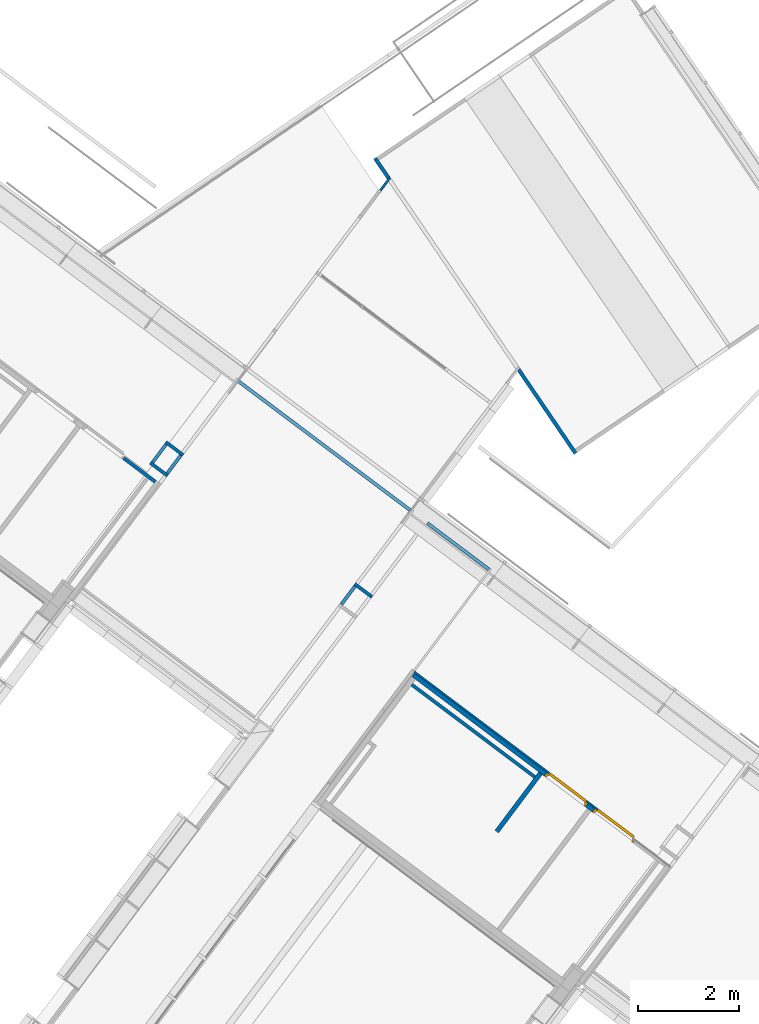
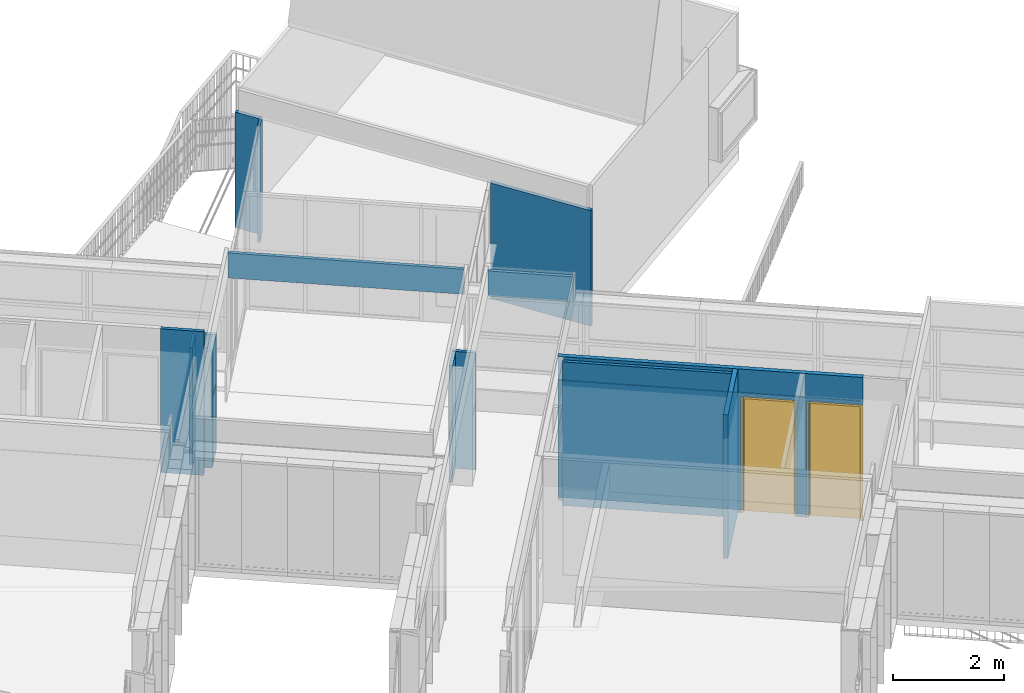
# One storey, part 130 of 243: 19 walls, 2 doors, 5 openings.
"""IFC2X3 building model written with IfcOpenShell, lengths in metres."""

from ifc_helpers import new_model, entity, si_unit, converted_unit, derived_unit, direction, frame, frame_2d, origin, place, context, subcontext, project, spatial, polyline, rectangle, outline, extrude, faceted_brep, source, transform, mapped, material, material_list, layer, layer_set, layer_usage, type_object, type_shapes, element, fill, save


model = new_model("IFC2X3")

# Units and contexts
model_context = context("Model", 3, precision=1e-05, world=origin(), true_north=direction((6.123031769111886e-17, 1.0)))
body_context = subcontext(model_context, "Body", "Model", "MODEL_VIEW")
ifc_project = project(units=[si_unit("LENGTHUNIT", "METRE"), si_unit("AREAUNIT", "SQUARE_METRE"), si_unit("VOLUMEUNIT", "CUBIC_METRE"), converted_unit("PLANEANGLEUNIT", "DEGREE", entity("IfcRatioMeasure", 0.017453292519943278), si_unit("PLANEANGLEUNIT", "RADIAN"), dimensions=[0, 0, 0, 0, 0, 0, 0]), si_unit("MASSUNIT", "GRAM", prefix="KILO"), derived_unit("MASSDENSITYUNIT", [(si_unit("MASSUNIT", "GRAM", prefix="KILO"), 1), (si_unit("LENGTHUNIT", "METRE"), -3)]), derived_unit("IONCONCENTRATIONUNIT", [(si_unit("MASSUNIT", "GRAM", prefix="KILO"), 1), (si_unit("LENGTHUNIT", "METRE"), -3)]), derived_unit("MOMENTOFINERTIAUNIT", [(si_unit("LENGTHUNIT", "METRE"), 4)]), si_unit("TIMEUNIT", "SECOND"), si_unit("FREQUENCYUNIT", "HERTZ"), si_unit("THERMODYNAMICTEMPERATUREUNIT", "DEGREE_CELSIUS"), derived_unit("THERMALTRANSMITTANCEUNIT", [(si_unit("MASSUNIT", "GRAM", prefix="KILO"), 1), (si_unit("THERMODYNAMICTEMPERATUREUNIT", "KELVIN"), -1), (si_unit("TIMEUNIT", "SECOND"), -3)]), derived_unit("THERMALCONDUCTANCEUNIT", [(si_unit("MASSUNIT", "GRAM", prefix="KILO"), 1), (si_unit("THERMODYNAMICTEMPERATUREUNIT", "KELVIN"), -1), (si_unit("TIMEUNIT", "SECOND"), -3), (si_unit("LENGTHUNIT", "METRE"), 1)]), derived_unit("VOLUMETRICFLOWRATEUNIT", [(si_unit("LENGTHUNIT", "METRE"), 3), (si_unit("TIMEUNIT", "SECOND"), -1)]), derived_unit("MASSFLOWRATEUNIT", [(si_unit("MASSUNIT", "GRAM", prefix="KILO"), 1), (si_unit("TIMEUNIT", "SECOND"), -1)]), derived_unit("ROTATIONALFREQUENCYUNIT", [(si_unit("TIMEUNIT", "SECOND"), -1)]), si_unit("ELECTRICCURRENTUNIT", "AMPERE"), si_unit("ELECTRICVOLTAGEUNIT", "VOLT"), si_unit("POWERUNIT", "WATT"), si_unit("FORCEUNIT", "NEWTON", prefix="KILO"), si_unit("ILLUMINANCEUNIT", "LUX"), si_unit("LUMINOUSFLUXUNIT", "LUMEN"), si_unit("LUMINOUSINTENSITYUNIT", "CANDELA"), derived_unit("USERDEFINED", [(si_unit("MASSUNIT", "GRAM", prefix="KILO"), -1), (si_unit("LENGTHUNIT", "METRE"), -2), (si_unit("TIMEUNIT", "SECOND"), 3), (si_unit("LUMINOUSFLUXUNIT", "LUMEN"), 1)]), derived_unit("USERDEFINED", [(si_unit("MASSUNIT", "GRAM", prefix="KILO"), 1), (si_unit("TIMEUNIT", "SECOND"), -3), (si_unit("LENGTHUNIT", "METRE"), 3), (si_unit("ELECTRICCURRENTUNIT", "AMPERE"), -2)]), derived_unit("SOUNDPOWERUNIT", [(si_unit("MASSUNIT", "GRAM", prefix="KILO"), 1), (si_unit("TIMEUNIT", "SECOND"), -3), (si_unit("LENGTHUNIT", "METRE"), 2)]), derived_unit("SOUNDPRESSUREUNIT", [(si_unit("MASSUNIT", "GRAM", prefix="KILO"), 1), (si_unit("LENGTHUNIT", "METRE"), -1), (si_unit("TIMEUNIT", "SECOND"), -2)]), derived_unit("LINEARVELOCITYUNIT", [(si_unit("LENGTHUNIT", "METRE"), 1), (si_unit("TIMEUNIT", "SECOND"), -1)]), si_unit("PRESSUREUNIT", "PASCAL"), derived_unit("USERDEFINED", [(si_unit("MASSUNIT", "GRAM", prefix="KILO"), 1), (si_unit("LENGTHUNIT", "METRE"), -2), (si_unit("TIMEUNIT", "SECOND"), -2)]), derived_unit("LINEARFORCEUNIT", [(si_unit("MASSUNIT", "GRAM", prefix="KILO"), 1), (si_unit("TIMEUNIT", "SECOND"), -2)]), derived_unit("PLANARFORCEUNIT", [(si_unit("MASSUNIT", "GRAM", prefix="KILO"), 1), (si_unit("LENGTHUNIT", "METRE"), -1), (si_unit("TIMEUNIT", "SECOND"), -2)]), derived_unit("SPECIFICHEATCAPACITYUNIT", [(si_unit("THERMODYNAMICTEMPERATUREUNIT", "KELVIN"), -1), (si_unit("LENGTHUNIT", "METRE"), 2), (si_unit("TIMEUNIT", "SECOND"), -2)]), derived_unit("HEATINGVALUEUNIT", [(si_unit("LENGTHUNIT", "METRE"), 2), (si_unit("TIMEUNIT", "SECOND"), -2)]), derived_unit("VAPORPERMEABILITYUNIT", [(si_unit("LENGTHUNIT", "METRE"), -1), (si_unit("TIMEUNIT", "SECOND"), 1)]), derived_unit("DYNAMICVISCOSITYUNIT", [(si_unit("MASSUNIT", "GRAM", prefix="KILO"), 1), (si_unit("TIMEUNIT", "SECOND"), -1), (si_unit("LENGTHUNIT", "METRE"), -1)]), derived_unit("THERMALEXPANSIONCOEFFICIENTUNIT", [(si_unit("THERMODYNAMICTEMPERATUREUNIT", "KELVIN"), -1)]), derived_unit("MODULUSOFELASTICITYUNIT", [(si_unit("MASSUNIT", "GRAM", prefix="KILO"), 1), (si_unit("LENGTHUNIT", "METRE"), -1), (si_unit("TIMEUNIT", "SECOND"), -2)]), derived_unit("ISOTHERMALMOISTURECAPACITYUNIT", [(si_unit("LENGTHUNIT", "METRE"), 3), (si_unit("MASSUNIT", "GRAM", prefix="KILO"), -1)]), derived_unit("MOISTUREDIFFUSIVITYUNIT", [(si_unit("TIMEUNIT", "SECOND"), -1), (si_unit("LENGTHUNIT", "METRE"), 2)])], contexts=[model_context])

# Site, building, storey
site_placement = place(None, frame((0.0, 0.0, 235.0), z_axis=(0.0, 0.0, 1.0), x_axis=(-0.7996477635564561, 0.6004693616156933, 0.0)))
site = spatial("IfcSite", under=ifc_project, at=site_placement, Name="Default", CompositionType="ELEMENT")
building_placement = place(site_placement, origin())
building = spatial("IfcBuilding", under=site, at=building_placement, CompositionType="ELEMENT")
storey_placement = place(building_placement, origin())
storey = spatial("IfcBuildingStorey", under=building, at=storey_placement, Name="P0- Escola", CompositionType="ELEMENT", Elevation=0.0)

# Walls
ifc_material_1 = material(Name="_Fusta massisa- T1-  REV- PAV")
ifc_layer_1 = layer(ifc_material_1, 0.015)
ifc_material_2 = material(Name="_Genèric perfils, muntants, rastrells")
ifc_layer_2 = layer(ifc_material_2, 0.05)
ifc_layer_set_1 = layer_set([ifc_layer_1, ifc_layer_2], Name="Muro básico:REV- Fusta- T1- 6,5 cm")
ifc_layer_usage_1 = layer_usage(ifc_layer_set_1, "AXIS2", "NEGATIVE", 0.0325)
wall_type_1 = type_object("IfcWallType", Name="Muro básico:REV- Fusta- T1- 6,5 cm", PredefinedType="STANDARD", material=ifc_layer_set_1)
wall_1_placement = place(storey_placement, frame((66.41264768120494, -40.1401917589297, 0.0), z_axis=(0.0, 0.0, 1.0), x_axis=(0.0, 1.0, 0.0)))
element("IfcWallStandardCase", 1, at=wall_1_placement, inside=storey, type_object=wall_type_1, material=ifc_layer_usage_1, Name="Muro básico:REV- Fusta- T1- 6,5 cm", ObjectType="Muro básico:REV- Fusta- T1- 6,5 cm", context=body_context, shape_type="SweptSolid", body=[
    extrude(rectangle(XDim=0.45000000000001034, YDim=0.06500000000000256, at=frame_2d((0.22500000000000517, 0.0), x_axis=(-1.0, 0.0))), origin(), (0.0, 0.0, 1.0), 1.4999999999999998),
])
ifc_layer_usage_2 = layer_usage(ifc_layer_set_1, "AXIS2", "POSITIVE", -0.0325)
wall_2_placement = place(storey_placement, frame((66.77764768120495, -40.1401917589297, 0.0), z_axis=(0.0, 0.0, 1.0), x_axis=(0.0, 1.0, 0.0)))
element("IfcWallStandardCase", 2, at=wall_2_placement, inside=storey, type_object=wall_type_1, material=ifc_layer_usage_2, Name="Muro básico:REV- Fusta- T1- 6,5 cm", ObjectType="Muro básico:REV- Fusta- T1- 6,5 cm", context=body_context, shape_type="SweptSolid", body=[
    extrude(rectangle(XDim=0.45000000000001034, YDim=0.06500000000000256, at=frame_2d((0.22500000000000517, 0.0), x_axis=(-1.0, 0.0))), origin(), (0.0, 0.0, 1.0), 1.4999999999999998),
])
wall_3_placement = place(storey_placement, frame((66.81014768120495, -39.65769175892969, 0.0), z_axis=(0.0, 0.0, 1.0), x_axis=(-1.0, 0.0, 0.0)))
element("IfcWallStandardCase", 3, at=wall_3_placement, inside=storey, type_object=wall_type_1, material=ifc_layer_usage_2, Name="Muro básico:REV- Fusta- T1- 6,5 cm", ObjectType="Muro básico:REV- Fusta- T1- 6,5 cm", context=body_context, shape_type="SweptSolid", body=[
    extrude(rectangle(XDim=0.4300000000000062, YDim=0.06500000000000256, at=frame_2d((0.2150000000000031, 0.0), x_axis=(-1.0, 0.0))), origin(), (0.0, 0.0, 1.0), 2.5650000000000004),
])
wall_4_placement = place(storey_placement, frame((66.81014768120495, -40.1726917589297, 0.0), z_axis=(0.0, 0.0, 1.0), x_axis=(-1.0, 0.0, 0.0)))
element("IfcWallStandardCase", 4, at=wall_4_placement, inside=storey, type_object=wall_type_1, material=ifc_layer_usage_1, Name="Muro básico:REV- Fusta- T1- 6,5 cm", ObjectType="Muro básico:REV- Fusta- T1- 6,5 cm", context=body_context, shape_type="SweptSolid", body=[
    extrude(rectangle(XDim=0.4300000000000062, YDim=0.06500000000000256, at=frame_2d((0.2150000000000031, 0.0), x_axis=(-1.0, 0.0))), origin(), (0.0, 0.0, 1.0), 2.5650000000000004),
])
wall_5_placement = place(storey_placement, frame((62.07764768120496, -40.140191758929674, 0.0), z_axis=(0.0, 0.0, 1.0), x_axis=(0.0, 1.0, 0.0)))
element("IfcWallStandardCase", 5, at=wall_5_placement, inside=storey, type_object=wall_type_1, material=ifc_layer_usage_2, Name="Muro básico:REV- Fusta- T1- 6,5 cm", ObjectType="Muro básico:REV- Fusta- T1- 6,5 cm", context=body_context, shape_type="SweptSolid", body=[
    extrude(rectangle(XDim=0.45000000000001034, YDim=0.06500000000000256, at=frame_2d((0.22500000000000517, 0.0), x_axis=(-1.0, 0.0))), origin(), (0.0, 0.0, 1.0), 1.4999999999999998),
])
wall_6_placement = place(storey_placement, frame((62.11014768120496, -40.17269175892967, 0.0), z_axis=(0.0, 0.0, 1.0), x_axis=(-1.0, 0.0, 0.0)))
element("IfcWallStandardCase", 6, at=wall_6_placement, inside=storey, type_object=wall_type_1, material=ifc_layer_usage_1, Name="Muro básico:REV- Fusta- T1- 6,5 cm", ObjectType="Muro básico:REV- Fusta- T1- 6,5 cm", context=body_context, shape_type="SweptSolid", body=[
    extrude(rectangle(XDim=0.4300000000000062, YDim=0.06500000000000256, at=frame_2d((0.2150000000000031, 0.0), x_axis=(-1.0, 0.0))), origin(), (0.0, 0.0, 1.0), 2.5650000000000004),
])
ifc_material_3 = material(Name="_Ceràmica- ENV")
ifc_layer_3 = layer(ifc_material_3, 0.09)
ifc_layer_set_2 = layer_set([ifc_layer_3], Name="Muro básico:ENV- Ceràmic- 9 cm")
ifc_layer_usage_3 = layer_usage(ifc_layer_set_2, "AXIS2", "POSITIVE", -0.045)
wall_type_2 = type_object("IfcWallType", Name="Muro básico:ENV- Ceràmic- 9 cm", PredefinedType="STANDARD", material=ifc_layer_set_2)
wall_7_placement = place(storey_placement, frame((56.89314768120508, -37.930191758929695, 0.0), z_axis=(0.0, 0.0, 1.0), x_axis=(0.0, -1.0, 0.0)))
element("IfcWallStandardCase", 7, at=wall_7_placement, inside=storey, type_object=wall_type_2, material=ifc_layer_usage_3, Name="Muro básico:ENV- Ceràmic- 9 cm", ObjectType="Muro básico:ENV- Ceràmic- 9 cm", context=body_context, shape_type="SweptSolid", body=[
    extrude(rectangle(XDim=1.4499999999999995, YDim=0.08999999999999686, at=frame_2d((0.7249999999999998, 0.0), x_axis=(-1.0, 0.0))), origin(), (0.0, 0.0, 1.0), 3.150000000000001),
])

# Wall, openings, doors
wall_8_placement = place(storey_placement, frame((54.58814768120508, -39.42519175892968, 0.0)))
wall_8 = element("IfcWallStandardCase", 8, at=wall_8_placement, inside=storey, type_object=wall_type_2, material=ifc_layer_usage_3, Name="Muro básico:ENV- Ceràmic- 9 cm", ObjectType="Muro básico:ENV- Ceràmic- 9 cm", context=body_context, shape_type="SweptSolid", body=[
    extrude(rectangle(XDim=5.51199999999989, YDim=0.08999999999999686, at=frame_2d((2.755999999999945, 8.326672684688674e-17), x_axis=(-1.0, 0.0))), origin(), (0.0, 0.0, 1.0), 3.150000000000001),
])
opening_1_placement = place(wall_8_placement, frame((0.0, -0.045000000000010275, 0.0)))
opening_1 = element("IfcOpeningElement", 9, at=opening_1_placement, cuts=wall_8, Name="FUS- Porta Fusta- marc ocult- obertura corredera:FUS- Porta Fusta- marc ocult- 90x250,5 cm:1", ObjectType="Opening", context=body_context, shape_type="SweptSolid", body=[
    extrude(rectangle(XDim=2.544999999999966, YDim=1.0199999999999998, at=frame_2d((1.272499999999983, 0.5099999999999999), x_axis=(1.0, 0.0))), frame((0.0, 0.0, 0.0), z_axis=(0.0, 1.0, 0.0), x_axis=(0.0, 0.0, 1.0)), (0.0, 0.0, 1.0), 0.09),
])
opening_2_placement = place(wall_8_placement, frame((1.1899999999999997, -0.04500000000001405, 0.0)))
opening_2 = element("IfcOpeningElement", 10, at=opening_2_placement, cuts=wall_8, Name="FUS- Porta Fusta- marc ocult- obertura interior:FUS- Porta Fusta- marc ocult- 90x250,5 cm:1", ObjectType="Opening", context=body_context, shape_type="SweptSolid", body=[
    extrude(rectangle(XDim=2.544999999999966, YDim=1.0199999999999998, at=frame_2d((1.272499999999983, 0.5099999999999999), x_axis=(1.0, 0.0))), frame((0.0, 0.0, 0.0), z_axis=(0.0, 1.0, 0.0), x_axis=(0.0, 0.0, 1.0)), (0.0, 0.0, 1.0), 0.09),
])
ifc_material_4 = material(Name="_Fusta tecnològica- REV- PAV")
ifc_material_list = material_list([ifc_material_4, ifc_material_1])
door_style_1 = type_object("IfcDoorStyle", Name="FUS- Porta Fusta- marc ocult- obertura corredera:FUS- Porta Fusta- marc ocult- 90x250,5 cm", ConstructionType="NOTDEFINED", OperationType="NOTDEFINED", ParameterTakesPrecedence=False, Sizeable=False, material=ifc_material_list)
shared_shape_1 = source(origin(), body_context, "Body", "Brep", [
    faceted_brep([(0.040000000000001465, 0.0, 2.5049999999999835), (0.9799999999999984, 0.0, 2.5049999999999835), (0.9800000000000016, 0.0, 0.0), (1.0099999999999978, 0.0, 0.0), (1.0099999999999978, 0.0, 2.5449999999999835), (0.010000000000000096, 0.0, 2.5449999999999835), (0.010000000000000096, 0.0, 0.0), (0.03999999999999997, 0.0, 0.0), (0.9800000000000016, 0.05500000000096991, 0.0), (0.9800000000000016, 0.05500000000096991, 2.5049999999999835), (1.0099999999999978, 0.010000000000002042, 0.0), (1.0200000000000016, 0.05500000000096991, 0.0), (1.0200000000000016, 0.010000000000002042, 0.0), (1.0099999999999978, 0.010000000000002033, 2.5449999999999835), (0.010000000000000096, 0.010000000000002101, 2.5449999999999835), (0.010000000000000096, 0.010000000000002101, 0.0), (0.0, 0.010000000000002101, 0.0), (0.0, 0.09000000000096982, 0.0), (0.06000000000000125, 0.09000000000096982, 0.0), (0.06000000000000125, 0.04000000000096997, 0.0), (0.03999999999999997, 0.04000000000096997, 0.0), (0.03999999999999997, 0.04000000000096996, 2.5049999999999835), (0.0, 0.09000000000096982, 2.5449999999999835), (0.9599999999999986, 0.09000000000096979, 2.5449999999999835), (0.9599999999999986, 0.09000000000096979, 2.5049999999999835), (0.05999999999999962, 0.09000000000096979, 2.5049999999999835), (0.06000000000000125, 0.07000000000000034, 2.5049999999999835), (0.06000000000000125, 0.04000000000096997, 2.5049999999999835), (0.0, 0.010000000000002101, 2.5449999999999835), (0.9800000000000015, 0.055000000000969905, 2.5449999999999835), (1.0200000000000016, 0.05500000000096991, 2.5449999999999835), (1.0200000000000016, 0.010000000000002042, 2.5449999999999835), (0.9799999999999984, 0.07000000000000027, 2.5449999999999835), (0.9599999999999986, 0.07000000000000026, 2.5449999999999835), (0.9799999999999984, 0.07000000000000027, 2.5049999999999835), (0.9599999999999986, 0.07000000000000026, 2.5049999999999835)], [[[0, 1, 2, 3, 4, 5, 6, 7]], [[8, 2, 1, 9]], [[10, 3, 2, 8, 11, 12]], [[13, 4, 3, 10]], [[5, 14, 15, 6]], [[15, 16, 17, 18, 19, 20, 7, 6]], [[7, 20, 21, 0]], [[22, 23, 24, 25, 18, 17]], [[19, 18, 25, 26, 27]], [[28, 22, 17, 16]], [[29, 30, 11, 8, 9]], [[30, 31, 12, 11]], [[31, 13, 10, 12]], [[14, 28, 16, 15]], [[20, 19, 27, 21]], [[32, 33, 23, 22, 28, 14, 5, 4, 13, 31, 30, 29]], [[33, 32, 34, 35]], [[23, 33, 35, 24]], [[34, 32, 29, 9]], [[25, 24, 35, 34, 9, 1, 0, 21, 27, 26]]]),
    faceted_brep([(0.9599999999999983, 0.12500000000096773, 0.0), (0.9599999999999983, 0.07500000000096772, 0.0), (0.05999999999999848, 0.07500000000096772, 0.0), (0.05999999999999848, 0.12500000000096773, 0.0), (0.9599999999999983, 0.12500000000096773, 2.5050000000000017), (0.9599999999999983, 0.07500000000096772, 2.5050000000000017), (0.05999999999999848, 0.07500000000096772, 2.5050000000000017), (0.05999999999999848, 0.12500000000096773, 2.5050000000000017)], [[[0, 1, 2, 3]], [[4, 5, 1, 0]], [[5, 6, 2, 1]], [[6, 7, 3, 2]], [[7, 4, 0, 3]], [[4, 7, 6, 5]]]),
])
type_shapes(door_style_1, [shared_shape_1])
door_1_placement = place(opening_1_placement, frame((1.0200000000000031, 0.09000000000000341, 0.0), z_axis=(0.0, 0.0, 1.0), x_axis=(-1.0, 0.0, 0.0)))
door_1 = element("IfcDoor", 11, at=door_1_placement, inside=storey, type_object=door_style_1, material=ifc_material_list, Name="FUS- Porta Fusta- marc ocult- obertura corredera:FUS- Porta Fusta- marc ocult- 90x250,5 cm", ObjectType="FUS- Porta Fusta- marc ocult- obertura corredera:FUS- Porta Fusta- marc ocult- 90x250,5 cm", OverallHeight=2.544999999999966, OverallWidth=1.020000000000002, context=body_context, shape_type="MappedRepresentation", body=[
    mapped(shared_shape_1, transform((0.0, 0.0, 0.0), scale=1.0)),
])
fill(opening_1, door_1)
ifc_material_5 = material(Name="_Fusta massisa- T1")
door_style_2 = type_object("IfcDoorStyle", Name="FUS- Porta Fusta- marc ocult- obertura interior:FUS- Porta Fusta- marc ocult- 90x250,5 cm", ConstructionType="NOTDEFINED", OperationType="NOTDEFINED", ParameterTakesPrecedence=False, Sizeable=False, material=ifc_material_5)
shared_shape_2 = source(origin(), body_context, "Body", "Brep", [
    faceted_brep([(1.0100000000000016, 0.0100000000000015, 0.0), (1.0100000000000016, 0.0, 0.0), (0.9800000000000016, 0.0, 0.0), (0.9800000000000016, 0.04000000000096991, 0.0), (0.9599999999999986, 0.04000000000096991, 0.0), (0.9599999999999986, 0.09000000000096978, 0.0), (1.0200000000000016, 0.09000000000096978, 0.0), (1.0200000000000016, 0.0100000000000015, 0.0), (1.0100000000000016, 0.010000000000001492, 2.5449999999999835), (1.0100000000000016, 0.0, 2.5449999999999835), (0.9800000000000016, 0.0, 2.5049999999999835), (0.9800000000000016, 0.04000000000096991, 2.504999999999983), (0.9599999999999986, 0.04000000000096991, 2.5049999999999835), (0.9599999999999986, 0.07000000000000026, 2.5049999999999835), (0.9599999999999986, 0.09000000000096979, 2.5049999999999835), (1.0200000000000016, 0.09000000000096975, 2.5449999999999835), (1.0200000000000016, 0.0100000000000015, 2.5449999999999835), (0.010000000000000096, 0.01000000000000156, 0.0), (0.0, 0.01000000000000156, 0.0), (0.0, 0.09000000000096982, 0.0), (0.06000000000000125, 0.09000000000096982, 0.0), (0.06000000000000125, 0.040000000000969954, 0.0), (0.03999999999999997, 0.04000000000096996, 0.0), (0.03999999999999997, 0.0, 0.0), (0.010000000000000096, 0.0, 0.0), (0.010000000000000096, 0.01000000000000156, 2.5449999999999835), (0.0, 0.01000000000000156, 2.5449999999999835), (0.0, 0.09000000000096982, 2.5449999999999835), (0.06000000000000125, 0.09000000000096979, 2.5049999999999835), (0.06000000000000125, 0.07000000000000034, 2.5049999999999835), (0.06000000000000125, 0.040000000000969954, 2.5049999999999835), (0.040000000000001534, 0.04000000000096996, 2.5049999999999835), (0.03999999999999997, 0.0, 2.5049999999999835), (0.010000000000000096, 0.0, 2.5449999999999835)], [[[0, 1, 2, 3, 4, 5, 6, 7]], [[8, 9, 1, 0]], [[3, 2, 10, 11]], [[4, 3, 11, 12]], [[5, 4, 12, 13, 14]], [[15, 16, 7, 6]], [[16, 8, 0, 7]], [[17, 18, 19, 20, 21, 22, 23, 24]], [[25, 26, 18, 17]], [[26, 27, 19, 18]], [[21, 20, 28, 29, 30]], [[22, 21, 30, 31]], [[23, 22, 31, 32]], [[33, 25, 17, 24]], [[8, 16, 15, 27, 26, 25, 33, 9]], [[28, 14, 13, 12, 11, 10, 32, 31, 30, 29]], [[32, 10, 2, 1, 9, 33, 24, 23]], [[14, 28, 20, 19, 27, 15, 6, 5]]]),
    faceted_brep([(0.9599999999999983, 0.12499999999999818, 0.0), (0.9599999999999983, 0.0749999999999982, 0.0), (0.05999999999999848, 0.0749999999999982, 0.0), (0.05999999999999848, 0.12499999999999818, 0.0), (0.9599999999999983, 0.12499999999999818, 2.5050000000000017), (0.9599999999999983, 0.0749999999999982, 2.5050000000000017), (0.05999999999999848, 0.0749999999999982, 2.5050000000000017), (0.05999999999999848, 0.12499999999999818, 2.5050000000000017)], [[[0, 1, 2, 3]], [[4, 5, 1, 0]], [[5, 6, 2, 1]], [[6, 7, 3, 2]], [[7, 4, 0, 3]], [[4, 7, 6, 5]]]),
])
type_shapes(door_style_2, [shared_shape_2])
door_2_placement = place(opening_2_placement, frame((1.019999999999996, 0.09000000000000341, 0.0), z_axis=(0.0, 0.0, 1.0), x_axis=(-1.0, 0.0, 0.0)))
door_2 = element("IfcDoor", 12, at=door_2_placement, inside=storey, type_object=door_style_2, material=ifc_material_5, Name="FUS- Porta Fusta- marc ocult- obertura interior:FUS- Porta Fusta- marc ocult- 90x250,5 cm", ObjectType="FUS- Porta Fusta- marc ocult- obertura interior:FUS- Porta Fusta- marc ocult- 90x250,5 cm", OverallHeight=2.544999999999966, OverallWidth=1.020000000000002, context=body_context, shape_type="MappedRepresentation", body=[
    mapped(shared_shape_2, transform((0.0, 0.0, 0.0), scale=1.0)),
])
fill(opening_2, door_2)

# Wall, openings
ifc_layer_4 = layer(ifc_material_1, 0.015)
ifc_layer_5 = layer(ifc_material_2, 0.02)
ifc_layer_set_3 = layer_set([ifc_layer_4, ifc_layer_5], Name="Muro básico:REV- Fusta- T1- 3,5 cm")
ifc_layer_usage_4 = layer_usage(ifc_layer_set_3, "AXIS2", "POSITIVE", -0.0175)
wall_type_3 = type_object("IfcWallType", Name="Muro básico:REV- Fusta- T1- 3,5 cm", PredefinedType="STANDARD", material=ifc_layer_set_3)
wall_9_placement = place(storey_placement, frame((54.643147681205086, -39.48769175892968, 0.0)))
wall_9 = element("IfcWallStandardCase", 13, at=wall_9_placement, inside=storey, type_object=wall_type_3, material=ifc_layer_usage_4, Name="Muro básico:REV- Fusta- T1- 3,5 cm", ObjectType="Muro básico:REV- Fusta- T1- 3,5 cm", context=body_context, shape_type="SweptSolid", body=[
    extrude(rectangle(XDim=5.471999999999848, YDim=0.034999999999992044, at=frame_2d((2.735999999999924, -1.259409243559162e-15), x_axis=(-1.0, 0.0))), origin(), (0.0, 0.0, 1.0), 2.565),
])
opening_3_placement = place(wall_9_placement, frame((0.0, -1.5065000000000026, 0.0)))
element("IfcOpeningElement", 14, at=opening_3_placement, cuts=wall_9, Name="Muro básico:REV- Fusta- T1- 3,5 cm", ObjectType="Opening", context=body_context, shape_type="SweptSolid", body=[
    extrude(rectangle(XDim=2.5049999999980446, YDim=0.9095950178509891, at=frame_2d((0.0, 8.659739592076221e-15), x_axis=(1.0, 0.0))), frame((0.45479750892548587, 0.0, 1.2524999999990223), z_axis=(0.0, 1.0, 0.0), x_axis=(0.0, 0.0, 1.0)), (0.0, 0.0, 1.0), 3.048),
])
opening_4_placement = place(wall_9_placement, frame((1.189408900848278, -1.5065000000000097, 0.0)))
element("IfcOpeningElement", 15, at=opening_4_placement, cuts=wall_9, Name="Muro básico:REV- Fusta- T1- 3,5 cm", ObjectType="Opening", context=body_context, shape_type="SweptSolid", body=[
    extrude(rectangle(XDim=2.5049999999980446, YDim=0.9188809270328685, at=frame_2d((0.0, -4.3298697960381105e-15), x_axis=(1.0, 0.0))), frame((0.4594404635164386, 0.0, 1.2524999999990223), z_axis=(0.0, 1.0, 0.0), x_axis=(0.0, 0.0, 1.0)), (0.0, 0.0, 1.0), 3.0479999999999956),
])

# Walls
ifc_material_6 = material(Name="_Guix laminat- ENV")
ifc_layer_6 = layer(ifc_material_6, 0.02)
ifc_material_7 = material(Name="_Aillament")
ifc_layer_7 = layer(ifc_material_7, 0.045)
ifc_layer_set_4 = layer_set([ifc_layer_6, ifc_layer_7], Name="Muro básico:REV- Guix Laminat Extradossat- Aillament- T1- 6,5 cm")
ifc_layer_usage_5 = layer_usage(ifc_layer_set_4, "AXIS2", "POSITIVE", -0.032499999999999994)
wall_type_4 = type_object("IfcWallType", Name="Muro básico:REV- Guix Laminat Extradossat- Aillament- T1- 6,5 cm", PredefinedType="STANDARD", material=ifc_layer_set_4)
wall_10_placement = place(storey_placement, frame((60.000147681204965, -39.2526917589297, 0.0), z_axis=(0.0, 0.0, 1.0), x_axis=(-1.0, 0.0, 0.0)))
element("IfcWallStandardCase", 16, at=wall_10_placement, inside=storey, type_object=wall_type_4, material=ifc_layer_usage_5, Name="Muro básico:REV- Guix Laminat Extradossat- Aillament- T1- 6,5 cm", ObjectType="Muro básico:REV- Guix Laminat Extradossat- Aillament- T1- 6,5 cm", context=body_context, shape_type="SweptSolid", body=[
    extrude(rectangle(XDim=3.061999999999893, YDim=0.06500000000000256, at=frame_2d((1.5309999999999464, -1.3530843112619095e-16), x_axis=(-1.0, 0.0))), origin(), (0.0, 0.0, 1.0), 3.150000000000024),
])
wall_11_placement = place(storey_placement, frame((61.68014768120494, -42.00769175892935, 2.535000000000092), z_axis=(0.0, 0.0, 1.0), x_axis=(-1.0, 0.0, 0.0)))
element("IfcWallStandardCase", 17, at=wall_11_placement, inside=storey, type_object=wall_type_4, material=ifc_layer_usage_5, Name="Muro básico:REV- Guix Laminat Extradossat- Aillament- T1- 6,5 cm", ObjectType="Muro básico:REV- Guix Laminat Extradossat- Aillament- T1- 6,5 cm", context=body_context, shape_type="SweptSolid", body=[
    extrude(rectangle(XDim=1.5350000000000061, YDim=0.06500000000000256, at=frame_2d((0.7675000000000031, 0.0), x_axis=(-1.0, 0.0))), origin(), (0.0, 0.0, 1.0), 0.5499999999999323),
])
wall_12_placement = place(storey_placement, frame((66.38014768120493, -42.00769175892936, 2.5350000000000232), z_axis=(0.0, 0.0, 1.0), x_axis=(-1.0, 0.0, 0.0)))
element("IfcWallStandardCase", 18, at=wall_12_placement, inside=storey, type_object=wall_type_4, material=ifc_layer_usage_5, Name="Muro básico:REV- Guix Laminat Extradossat- Aillament- T1- 6,5 cm", ObjectType="Muro básico:REV- Guix Laminat Extradossat- Aillament- T1- 6,5 cm", context=body_context, shape_type="SweptSolid", body=[
    extrude(rectangle(XDim=4.269999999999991, YDim=0.06500000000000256, at=frame_2d((2.1349999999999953, 0.0), x_axis=(-1.0, 0.0))), origin(), (0.0, 0.0, 1.0), 0.5500000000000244),
])
ifc_layer_8 = layer(ifc_material_6, 0.015)
ifc_layer_9 = layer(ifc_material_2, 0.05)
ifc_layer_set_5 = layer_set([ifc_layer_8, ifc_layer_9], Name="Muro básico:REV- Guix Laminat Extradossat- T1- 6,5 cm")
ifc_layer_usage_6 = layer_usage(ifc_layer_set_5, "AXIS2", "NEGATIVE", 0.0325)
wall_type_5 = type_object("IfcWallType", Name="Muro básico:REV- Guix Laminat Extradossat- T1- 6,5 cm", PredefinedType="STANDARD", material=ifc_layer_set_5)
wall_13_placement = place(storey_placement, frame((66.41264768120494, -40.1401917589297, 1.5000000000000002), z_axis=(0.0, 0.0, 1.0), x_axis=(0.0, 1.0, 0.0)))
element("IfcWallStandardCase", 19, at=wall_13_placement, inside=storey, type_object=wall_type_5, material=ifc_layer_usage_6, Name="Muro básico:REV- Guix Laminat Extradossat- T1- 6,5 cm", ObjectType="Muro básico:REV- Guix Laminat Extradossat- T1- 6,5 cm", context=body_context, shape_type="SweptSolid", body=[
    extrude(rectangle(XDim=0.45000000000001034, YDim=0.06500000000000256, at=frame_2d((0.22500000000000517, 0.0), x_axis=(-1.0, 0.0))), origin(), (0.0, 0.0, 1.0), 1.0650000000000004),
])
ifc_layer_usage_7 = layer_usage(ifc_layer_set_5, "AXIS2", "POSITIVE", -0.0325)
for number, where, z_axis, x_axis, name in (
    (20, (66.77764768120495, -40.1401917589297, 1.5000000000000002), (0.0, 0.0, 1.0), (0.0, 1.0, 0.0), "Muro básico:REV- Guix Laminat Extradossat- T1- 6,5 cm"),
    (21, (62.07764768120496, -40.140191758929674, 1.5000000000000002), (0.0, 0.0, 1.0), (0.0, 1.0, 0.0), "Muro básico:REV- Guix Laminat Extradossat- T1- 6,5 cm"),
):
    element("IfcWallStandardCase", number, at=place(storey_placement, frame(where, z_axis=z_axis, x_axis=x_axis)), inside=storey, type_object=wall_type_5, material=ifc_layer_usage_7, Name=name, ObjectType="Muro básico:REV- Guix Laminat Extradossat- T1- 6,5 cm", context=body_context, shape_type="SweptSolid", body=[
        extrude(rectangle(XDim=0.45000000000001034, YDim=0.06500000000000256, at=frame_2d((0.22500000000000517, 0.0), x_axis=(-1.0, 0.0))), origin(), (0.0, 0.0, 1.0), 1.0650000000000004),
    ])
ifc_layer_10 = layer(ifc_material_1, 0.02)
ifc_layer_11 = layer(ifc_material_2, 0.03)
ifc_layer_set_6 = layer_set([ifc_layer_10, ifc_layer_11], Name="Muro básico:REV- Fusta- T1- 5 cm")
ifc_layer_usage_8 = layer_usage(ifc_layer_set_6, "AXIS2", "NEGATIVE", 0.024999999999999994)
wall_type_6 = type_object("IfcWallType", Name="Muro básico:REV- Fusta- T1- 5 cm", PredefinedType="STANDARD", material=ifc_layer_set_6)
wall_14_placement = place(storey_placement, frame((66.40314360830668, -47.0742589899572, 0.0), z_axis=(0.0, 0.0, 1.0), x_axis=(0.0, 1.0, 0.0)))
element("IfcWallStandardCase", 22, at=wall_14_placement, inside=storey, type_object=wall_type_6, material=ifc_layer_usage_8, Name="Muro básico:REV- Fusta- T1- 5 cm", ObjectType="Muro básico:REV- Fusta- T1- 5 cm", context=body_context, shape_type="SweptSolid", body=[
    extrude(outline(polyline([(0.3401238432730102, -0.02499999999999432), (0.3401238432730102, 0.025000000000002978), (0.017132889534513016, 0.025000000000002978), (0.0, -0.02499999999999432), (0.07928086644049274, -0.02499999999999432), (0.3401238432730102, -0.02499999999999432)])), origin(), (0.0, 0.0, 1.0), 2.5350000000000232),
])
ifc_layer_12 = layer(ifc_material_5, 0.015)
ifc_layer_13 = layer(ifc_material_6, 0.015)
ifc_layer_14 = layer(ifc_material_7, 0.045)
ifc_layer_set_7 = layer_set([ifc_layer_12, ifc_layer_13, ifc_layer_14], Name="Muro básico:REV- Fusta + Guix Laminat Extradossat- Aillament- T1- 7,5 cm")
ifc_layer_usage_9 = layer_usage(ifc_layer_set_7, "AXIS2", "NEGATIVE", 0.0375)
wall_type_7 = type_object("IfcWallType", Name="Muro básico:REV- Fusta + Guix Laminat Extradossat- Aillament- T1- 7,5 cm", PredefinedType="STANDARD", material=ifc_layer_set_7)
wall_15_placement = place(storey_placement, frame((62.072643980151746, -45.542172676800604, 0.0), z_axis=(0.0, 0.0, 1.0), x_axis=(-0.9460037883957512, 0.3241555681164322, 0.0)))
element("IfcWallStandardCase", 23, at=wall_15_placement, inside=storey, type_object=wall_type_7, material=ifc_layer_usage_9, Name="Muro básico:REV- Fusta + Guix Laminat Extradossat- Aillament- T1- 7,5 cm", ObjectType="Muro básico:REV- Fusta + Guix Laminat Extradossat- Aillament- T1- 7,5 cm", context=body_context, shape_type="SweptSolid", body=[
    extrude(outline(polyline([(2.025927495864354, -0.037500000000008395), (2.0259274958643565, 0.03749999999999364), (1.9509274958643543, 0.03749999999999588), (0.0, 0.03749999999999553), (0.025699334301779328, -0.03750000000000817), (2.025927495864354, -0.037500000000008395)])), origin(), (0.0, 0.0, 1.0), 2.5349999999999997),
])
ifc_layer_usage_10 = layer_usage(ifc_layer_set_7, "AXIS2", "POSITIVE", -0.0375)
wall_16_placement = place(storey_placement, frame((66.41598777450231, -47.03045326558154, 0.0), z_axis=(0.0, 0.0, 1.0), x_axis=(0.9460037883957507, -0.3241555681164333, 0.0)))
element("IfcWallStandardCase", 24, at=wall_16_placement, inside=storey, type_object=wall_type_7, material=ifc_layer_usage_10, Name="Muro básico:REV- Fusta + Guix Laminat Extradossat- Aillament- T1- 7,5 cm", ObjectType="Muro básico:REV- Fusta + Guix Laminat Extradossat- Aillament- T1- 7,5 cm", context=body_context, shape_type="SweptSolid", body=[
    extrude(outline(polyline([(0.48281838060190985, -0.03750000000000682), (0.48281838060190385, 0.03749999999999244), (0.0, 0.03749999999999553), (0.02569933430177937, -0.037500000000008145), (0.4078183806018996, -0.0375000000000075), (0.48281838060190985, -0.03750000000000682)])), origin(), (0.0, 0.0, 1.0), 2.5350000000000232),
])

# Wall, opening
ifc_layer_15 = layer(ifc_material_3, 0.07)
ifc_layer_set_8 = layer_set([ifc_layer_15], Name="Muro básico:ENV- Ceràmic- 7 cm 3")
ifc_layer_usage_11 = layer_usage(ifc_layer_set_8, "AXIS2", "POSITIVE", -0.035)
wall_type_8 = type_object("IfcWallType", Name="Muro básico:ENV- Ceràmic- 7 cm 3", PredefinedType="STANDARD", material=ifc_layer_set_8)
wall_17_placement = place(storey_placement, frame((66.50514768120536, -39.41519175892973, 0.0)))
wall_17 = element("IfcWallStandardCase", 25, at=wall_17_placement, inside=storey, type_object=wall_type_8, material=ifc_layer_usage_11, Name="Muro básico:ENV- Ceràmic- 7 cm 3", ObjectType="Muro básico:ENV- Ceràmic- 7 cm 3", context=body_context, shape_type="SweptSolid", body=[
    extrude(rectangle(XDim=0.782999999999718, YDim=0.07000000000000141, at=frame_2d((0.391499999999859, 0.0), x_axis=(-1.0, 0.0))), origin(), (0.0, 0.0, 1.0), 3.1500000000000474),
])
opening_5_placement = place(wall_17_placement, frame((0.782999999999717, -1.4889999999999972, 0.0)))
element("IfcOpeningElement", 26, at=opening_5_placement, cuts=wall_17, Name="Muro básico:ENV- Ceràmic- 7 cm 3", ObjectType="Opening", context=body_context, shape_type="SweptSolid", body=[
    extrude(rectangle(XDim=2.544999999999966, YDim=1.020000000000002, at=frame_2d((0.0, -4.3298697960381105e-15), x_axis=(1.0, 0.0))), frame((0.5100000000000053, 0.0, 1.272499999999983), z_axis=(0.0, 1.0, 0.0), x_axis=(0.0, 0.0, 1.0)), (0.0, 0.0, 1.0), 3.048),
])

save(model, "model.ifc")
